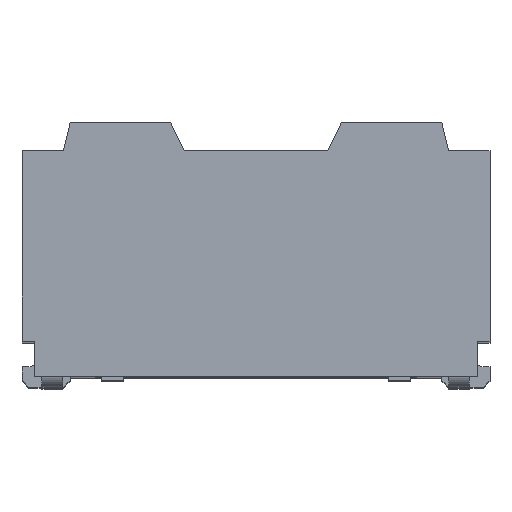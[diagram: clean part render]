
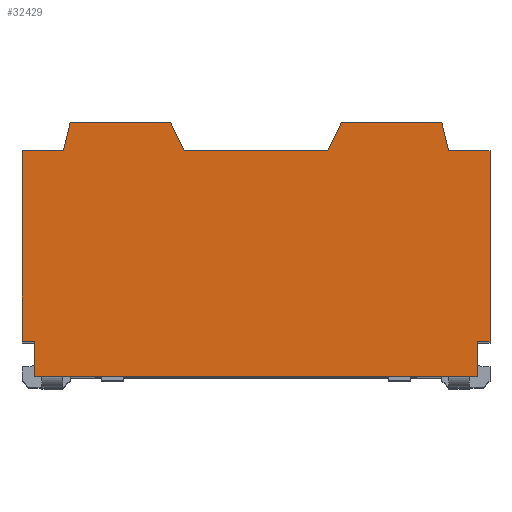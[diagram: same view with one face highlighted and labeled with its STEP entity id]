
A CAD part, top view. The second image highlights one B-rep face of the part: STEP entity #32429.
In plain terms, the highlighted planar face has unit normal (0, 0, 1).
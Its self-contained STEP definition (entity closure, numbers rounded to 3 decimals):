
#45=DIRECTION('',(0.,-1.,0.));
#46=VECTOR('',#45,1.385);
#47=CARTESIAN_POINT('',(0.,2.24,0.));
#48=LINE('',#47,#46);
#265=DIRECTION('',(1.,0.,0.));
#266=VECTOR('',#265,0.09);
#267=CARTESIAN_POINT('',(0.,0.855,0.));
#268=LINE('',#267,#266);
#5071=DIRECTION('',(1.,0.,0.));
#5072=VECTOR('',#5071,0.3);
#5073=CARTESIAN_POINT('',(0.,2.24,0.));
#5074=LINE('',#5073,#5072);
#5075=DIRECTION('',(0.243,0.97,0.));
#5076=VECTOR('',#5075,0.206);
#5077=CARTESIAN_POINT('',(0.3,2.24,0.));
#5078=LINE('',#5077,#5076);
#5079=DIRECTION('',(1.,0.,0.));
#5080=VECTOR('',#5079,0.73);
#5081=CARTESIAN_POINT('',(0.35,2.44,0.));
#5082=LINE('',#5081,#5080);
#5083=DIRECTION('',(0.447,-0.894,0.));
#5084=VECTOR('',#5083,0.224);
#5085=CARTESIAN_POINT('',(1.08,2.44,0.));
#5086=LINE('',#5085,#5084);
#5087=DIRECTION('',(1.,0.,0.));
#5088=VECTOR('',#5087,1.04);
#5089=CARTESIAN_POINT('',(1.18,2.24,0.));
#5090=LINE('',#5089,#5088);
#5091=DIRECTION('',(0.447,0.894,0.));
#5092=VECTOR('',#5091,0.224);
#5093=CARTESIAN_POINT('',(2.22,2.24,0.));
#5094=LINE('',#5093,#5092);
#5095=DIRECTION('',(1.,0.,0.));
#5096=VECTOR('',#5095,0.73);
#5097=CARTESIAN_POINT('',(2.32,2.44,0.));
#5098=LINE('',#5097,#5096);
#5099=DIRECTION('',(0.243,-0.97,0.));
#5100=VECTOR('',#5099,0.206);
#5101=CARTESIAN_POINT('',(3.05,2.44,0.));
#5102=LINE('',#5101,#5100);
#5103=DIRECTION('',(1.,0.,0.));
#5104=VECTOR('',#5103,0.3);
#5105=CARTESIAN_POINT('',(3.1,2.24,0.));
#5106=LINE('',#5105,#5104);
#5107=DIRECTION('',(0.,-1.,0.));
#5108=VECTOR('',#5107,1.385);
#5109=CARTESIAN_POINT('',(3.4,2.24,0.));
#5110=LINE('',#5109,#5108);
#5111=DIRECTION('',(-1.,0.,0.));
#5112=VECTOR('',#5111,0.09);
#5113=CARTESIAN_POINT('',(3.4,0.855,0.));
#5114=LINE('',#5113,#5112);
#5115=DIRECTION('',(0.,-1.,0.));
#5116=VECTOR('',#5115,0.255);
#5117=CARTESIAN_POINT('',(3.31,0.855,0.));
#5118=LINE('',#5117,#5116);
#5119=DIRECTION('',(-1.,0.,0.));
#5120=VECTOR('',#5119,3.22);
#5121=CARTESIAN_POINT('',(3.31,0.6,0.));
#5122=LINE('',#5121,#5120);
#5123=DIRECTION('',(0.,1.,0.));
#5124=VECTOR('',#5123,0.255);
#5125=CARTESIAN_POINT('',(0.09,0.6,0.));
#5126=LINE('',#5125,#5124);
#20875=CARTESIAN_POINT('',(0.,0.855,0.));
#20877=VERTEX_POINT('',#20875);
#20897=CARTESIAN_POINT('',(0.,2.24,0.));
#20898=VERTEX_POINT('',#20897);
#21009=CARTESIAN_POINT('',(0.09,0.855,0.));
#21010=VERTEX_POINT('',#21009);
#21371=CARTESIAN_POINT('',(3.4,0.855,0.));
#21373=VERTEX_POINT('',#21371);
#21561=CARTESIAN_POINT('',(3.31,0.855,0.));
#21562=VERTEX_POINT('',#21561);
#22643=CARTESIAN_POINT('',(0.09,0.6,0.));
#22644=VERTEX_POINT('',#22643);
#22651=CARTESIAN_POINT('',(0.3,2.24,0.));
#22652=VERTEX_POINT('',#22651);
#22653=CARTESIAN_POINT('',(0.35,2.44,0.));
#22654=VERTEX_POINT('',#22653);
#22655=CARTESIAN_POINT('',(1.08,2.44,0.));
#22656=VERTEX_POINT('',#22655);
#22657=CARTESIAN_POINT('',(1.18,2.24,0.));
#22658=VERTEX_POINT('',#22657);
#22659=CARTESIAN_POINT('',(2.22,2.24,0.));
#22660=VERTEX_POINT('',#22659);
#22661=CARTESIAN_POINT('',(2.32,2.44,0.));
#22662=VERTEX_POINT('',#22661);
#22663=CARTESIAN_POINT('',(3.05,2.44,0.));
#22664=VERTEX_POINT('',#22663);
#22665=CARTESIAN_POINT('',(3.1,2.24,0.));
#22666=VERTEX_POINT('',#22665);
#22667=CARTESIAN_POINT('',(3.4,2.24,0.));
#22668=VERTEX_POINT('',#22667);
#22669=CARTESIAN_POINT('',(3.31,0.6,0.));
#22670=VERTEX_POINT('',#22669);
#32395=CARTESIAN_POINT('',(1.7,1.52,0.));
#32396=DIRECTION('',(0.,0.,1.));
#32397=DIRECTION('',(1.,0.,0.));
#32398=AXIS2_PLACEMENT_3D('',#32395,#32396,#32397);
#32399=PLANE('',#32398);
#32400=ORIENTED_EDGE('',*,*,#27478,.F.);
#32402=ORIENTED_EDGE('',*,*,#32401,.T.);
#32404=ORIENTED_EDGE('',*,*,#32403,.T.);
#32406=ORIENTED_EDGE('',*,*,#32405,.T.);
#32408=ORIENTED_EDGE('',*,*,#32407,.T.);
#32410=ORIENTED_EDGE('',*,*,#32409,.T.);
#32412=ORIENTED_EDGE('',*,*,#32411,.T.);
#32414=ORIENTED_EDGE('',*,*,#32413,.T.);
#32416=ORIENTED_EDGE('',*,*,#32415,.T.);
#32418=ORIENTED_EDGE('',*,*,#32417,.T.);
#32419=ORIENTED_EDGE('',*,*,#28318,.T.);
#32420=ORIENTED_EDGE('',*,*,#28175,.T.);
#32422=ORIENTED_EDGE('',*,*,#32421,.T.);
#32423=ORIENTED_EDGE('',*,*,#32355,.T.);
#32425=ORIENTED_EDGE('',*,*,#32424,.T.);
#32426=ORIENTED_EDGE('',*,*,#27599,.F.);
#32427=EDGE_LOOP('',(#32400,#32402,#32404,#32406,#32408,#32410,#32412,#32414,
#32416,#32418,#32419,#32420,#32422,#32423,#32425,#32426));
#32428=FACE_OUTER_BOUND('',#32427,.F.);
#27478=EDGE_CURVE('',#20898,#20877,#48,.T.);
#27599=EDGE_CURVE('',#20877,#21010,#268,.T.);
#28175=EDGE_CURVE('',#21373,#21562,#5114,.T.);
#28318=EDGE_CURVE('',#22668,#21373,#5110,.T.);
#32355=EDGE_CURVE('',#22670,#22644,#5122,.T.);
#32401=EDGE_CURVE('',#20898,#22652,#5074,.T.);
#32403=EDGE_CURVE('',#22652,#22654,#5078,.T.);
#32405=EDGE_CURVE('',#22654,#22656,#5082,.T.);
#32407=EDGE_CURVE('',#22656,#22658,#5086,.T.);
#32409=EDGE_CURVE('',#22658,#22660,#5090,.T.);
#32411=EDGE_CURVE('',#22660,#22662,#5094,.T.);
#32413=EDGE_CURVE('',#22662,#22664,#5098,.T.);
#32415=EDGE_CURVE('',#22664,#22666,#5102,.T.);
#32417=EDGE_CURVE('',#22666,#22668,#5106,.T.);
#32421=EDGE_CURVE('',#21562,#22670,#5118,.T.);
#32424=EDGE_CURVE('',#22644,#21010,#5126,.T.);
#32429=ADVANCED_FACE('',(#32428),#32399,.T.);
